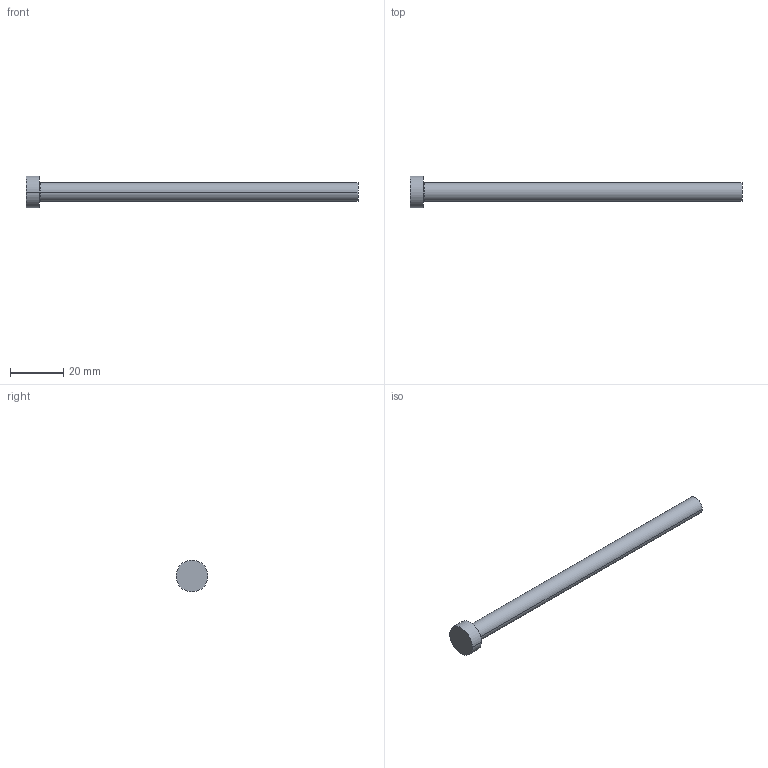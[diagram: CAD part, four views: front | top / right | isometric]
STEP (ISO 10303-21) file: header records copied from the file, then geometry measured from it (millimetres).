
FILE_DESCRIPTION (( 'STEP AP214' ), '1' );
FILE_NAME ('A-7x125.STEP', '2020-05-29T15:45:29', ( 'August' ), ( '' ), 'SwSTEP 2.0', 'SolidWorks 2018', '' );
FILE_SCHEMA (( 'AUTOMOTIVE_DESIGN' ));
Length unit declared in the file: millimetre
Products named in the file (1): A-7x125
Bounding box: 125 x 12 x 12 mm (x, y, z)
Volume: 5184.8 mm3; surface area: 3049 mm2
Topology: 1 solids, 1 shells, 9 faces, 16 edges, 10 vertices
Faces by surface type: cylinder 4, plane 3, torus 2
Entity records: 260 total; most frequent: DIRECTION 48, CARTESIAN_POINT 36, ORIENTED_EDGE 32, AXIS2_PLACEMENT_3D 22, EDGE_CURVE 16, CIRCLE 12, VERTEX_POINT 10, EDGE_LOOP 10
